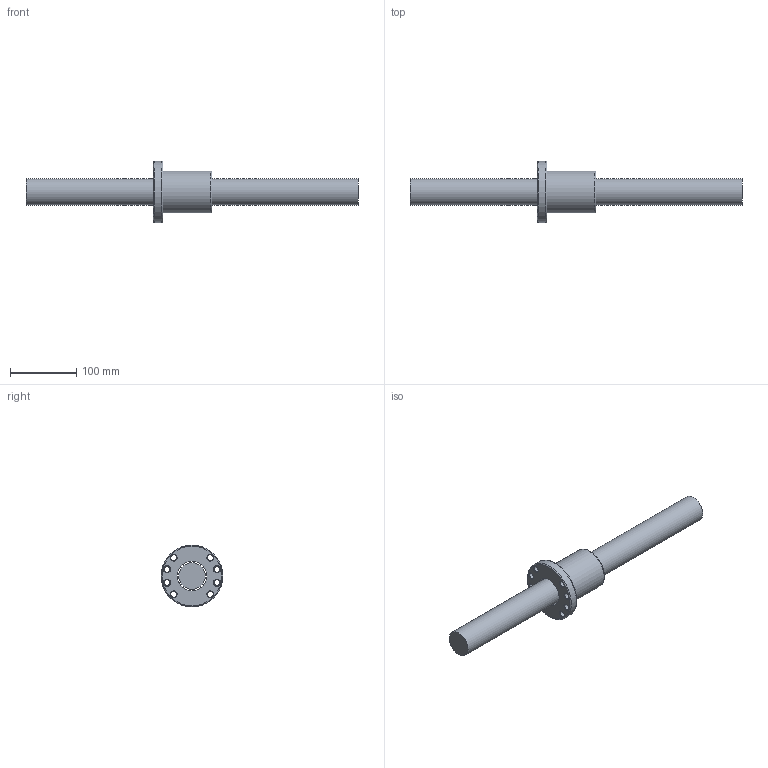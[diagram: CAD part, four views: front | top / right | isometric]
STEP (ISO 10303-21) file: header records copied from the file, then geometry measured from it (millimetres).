
FILE_DESCRIPTION (( 'STEP AP203' ), '1' );
FILE_NAME ('SFNU04010N-4.step', '2024-05-10T07:00:45', ( '' ), ( '' ), 'SwSTEP 2.0', 'SolidWorks 2022', '' );
FILE_SCHEMA (( 'CONFIG_CONTROL_DESIGN' ));
Length unit declared in the file: millimetre
Products named in the file (1): SFNU04010N-4
Bounding box: 500 x 93 x 93 mm (x, y, z)
Volume: 811398.6 mm3; surface area: 108676.3 mm2
Topology: 2 solids, 2 shells, 49 faces, 121 edges, 77 vertices
Faces by surface type: cylinder 19, cone 17, plane 6, bspline 4, torus 3
Full cylindrical faces by diameter (mm): 4 x1, 7 x5, 9 x8, 40 x1, 44.1 x1, 63 x1, 93 x1
Entity records: 2832 total; most frequent: CARTESIAN_POINT 1911, DIRECTION 176, ORIENTED_EDGE 118, EDGE_LOOP 100, AXIS2_PLACEMENT_3D 86, FACE_OUTER_BOUND 62, EDGE_CURVE 59, VERTEX_POINT 55
